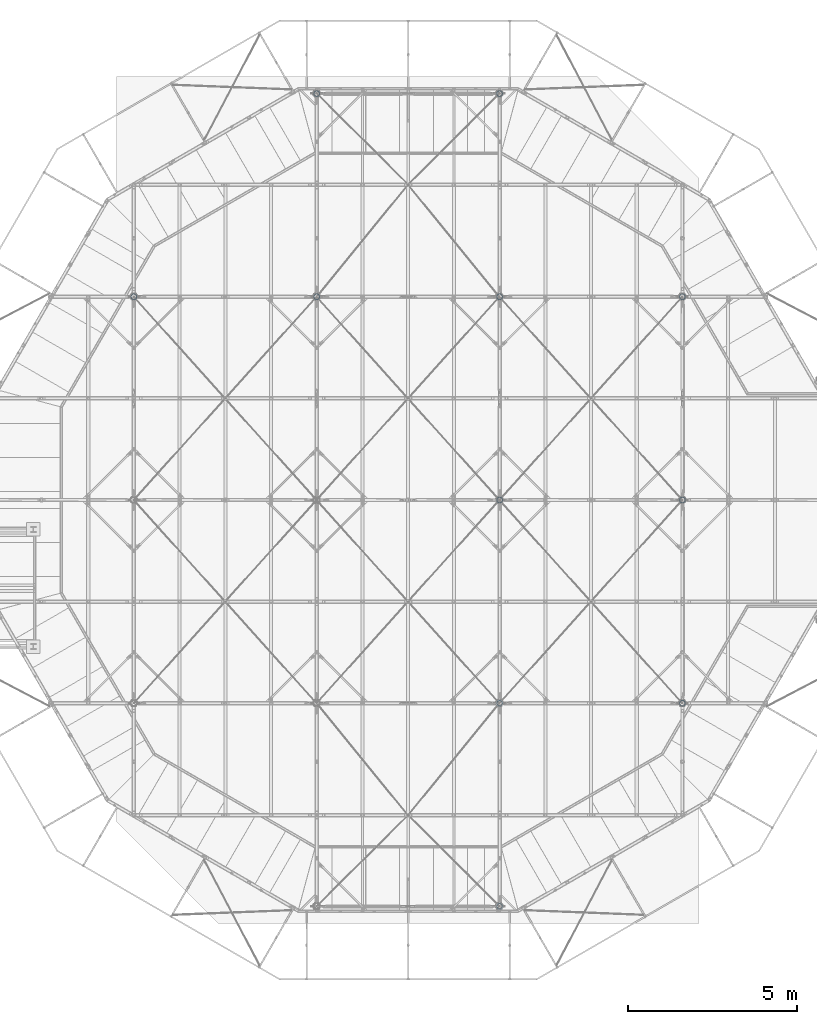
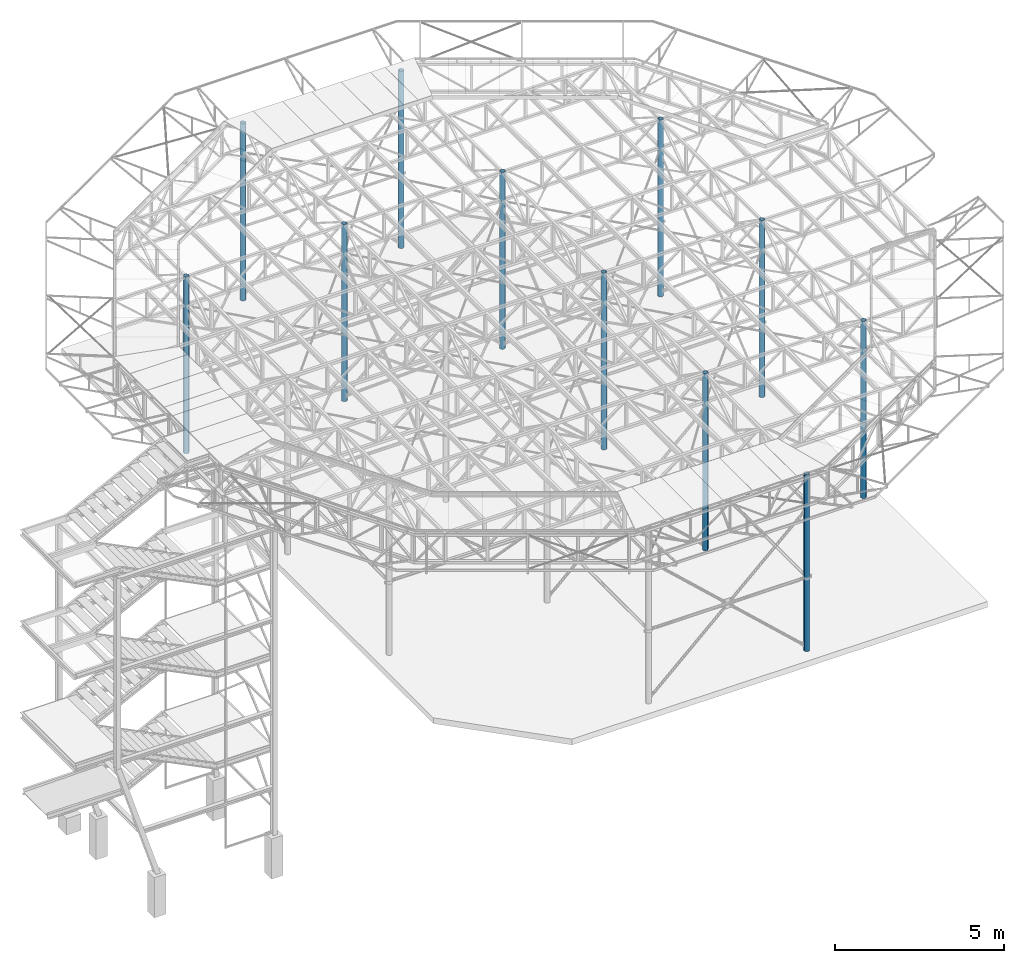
# One storey, part 3 of 132: 11 columns, 11 elements without a shape of their own.
"""IFC2X3 building model written with IfcOpenShell, lengths in millimetres."""

import ifcopenshell
import ifcopenshell.guid

model = None  # the IFC model being written
_history = None  # IfcOwnerHistory: only IFC2X3 demands one
_inside = {}  # id of a spatial element -> (the spatial element, [elements in it])
_under = {}  # id of a project, library or spatial element -> (it, [spatial elements below it])
_declared = {}  # id of a project -> (the project, [libraries it declares])
_typed = {}  # id of a type object -> (the type object, [elements of that type])
_made_of = {}  # id of a material, layer set ... -> (it, [elements and type objects made of it])


def new_model(schema):
    """Start an empty IFC model of exactly this schema.

    Asked for "IFC4X3", IfcOpenShell would pick the latest addendum, in which some entities
    have other attributes; the version numbers below select the first issue.
    IFC2X3 requires an IfcOwnerHistory on every rooted entity: one is made here for all.
    """
    global model, _history
    if schema == "IFC4X3":
        model = ifcopenshell.file(schema_version=(4, 3, 0, 0))
    else:
        model = ifcopenshell.file(schema=schema)
    _inside.clear()
    _under.clear()
    _declared.clear()
    _typed.clear()
    _made_of.clear()
    _history = None
    if model.schema == "IFC2X3":
        org = make("IfcOrganization", Name="unknown")
        user = make(
            "IfcPersonAndOrganization",
            ThePerson=make("IfcPerson", FamilyName="unknown"),
            TheOrganization=org,
        )
        app = make(
            "IfcApplication",
            ApplicationDeveloper=org,
            Version="unknown",
            ApplicationFullName="unknown",
            ApplicationIdentifier="unknown",
        )
        _history = make(
            "IfcOwnerHistory",
            OwningUser=user,
            OwningApplication=app,
            ChangeAction="ADDED",
            CreationDate=0,
        )
    return model


def make(cls, **values):
    """One entity of the class cls with the attributes given. An attribute that is None is left unset."""
    return model.create_entity(
        cls, **{name: value for name, value in values.items() if value is not None}
    )


def rooted(cls, **values):
    """An entity with a GlobalId (a new one), such as an element, a storey or a relation."""
    return make(cls, GlobalId=ifcopenshell.guid.new(), OwnerHistory=_history, **values)


def si_unit(unit_type, name, prefix=None):
    """IfcSIUnit, for example si_unit("LENGTHUNIT", "METRE", prefix="MILLI")."""
    return make("IfcSIUnit", UnitType=unit_type, Prefix=prefix, Name=name)


def assignment(units):
    """IfcUnitAssignment: the units of a project."""
    return None if units is None else make("IfcUnitAssignment", Units=units)


def point(xyz):
    """IfcCartesianPoint."""
    return None if xyz is None else make("IfcCartesianPoint", Coordinates=xyz)


def direction(xyz):
    """IfcDirection."""
    return None if xyz is None else make("IfcDirection", DirectionRatios=xyz)


def frame(location, z_axis=None, x_axis=None):
    """IfcAxis2Placement3D, a coordinate frame: its origin and axes. An axis left out is left unset."""
    return make(
        "IfcAxis2Placement3D",
        Location=point(location),
        Axis=direction(z_axis),
        RefDirection=direction(x_axis),
    )


def frame_2d(location, x_axis=None):
    """IfcAxis2Placement2D, a coordinate frame in the plane: its origin and x axis."""
    return make(
        "IfcAxis2Placement2D", Location=point(location), RefDirection=direction(x_axis)
    )


def origin_with_axes():
    """The frame at (0, 0, 0) with the z axis (0, 0, 1) and the x axis (1, 0, 0) written out."""
    return frame((0.0, 0.0, 0.0), z_axis=(0.0, 0.0, 1.0), x_axis=(1.0, 0.0, 0.0))


def origin_2d_with_axis():
    """The frame at (0, 0) in the plane with the x axis (1, 0) written out."""
    return frame_2d((0.0, 0.0), x_axis=(1.0, 0.0))


def place(relative_to, where):
    """IfcLocalPlacement: puts the frame where relative to a parent placement (None: the world)."""
    return make(
        "IfcLocalPlacement", PlacementRelTo=relative_to, RelativePlacement=where
    )


def context(
    kind, dimensions, precision=None, world=None, true_north=None, identifier=None
):
    """IfcGeometricRepresentationContext, for example the 3D "Model" context."""
    return make(
        "IfcGeometricRepresentationContext",
        ContextIdentifier=identifier,
        ContextType=kind,
        CoordinateSpaceDimension=dimensions,
        Precision=precision,
        WorldCoordinateSystem=world,
        TrueNorth=true_north,
    )


def subcontext(parent, identifier, kind, view, scale=None):
    """IfcGeometricRepresentationSubContext, for example "Body" below "Model"."""
    return make(
        "IfcGeometricRepresentationSubContext",
        ContextIdentifier=identifier,
        ContextType=kind,
        ParentContext=parent,
        TargetScale=scale,
        TargetView=view,
    )


def project(units=None, contexts=None):
    """IfcProject with its units and contexts."""
    return rooted(
        "IfcProject",
        Name="project",
        RepresentationContexts=contexts,
        UnitsInContext=assignment(units),
    )


def spatial(cls, under=None, at=None, **own):
    """A site, building, storey or space (cls), placed at a placement, below another one or the project."""
    s = rooted(cls, ObjectPlacement=at, **own)
    if under is not None:
        _under.setdefault(under.id(), (under, []))[1].append(s)
    return s


def profile(cls, at=None, kind="AREA", **sizes):
    """A parametric profile (cls). Its sizes go by their IFC names, for example OverallWidth=200.0."""
    return make(cls, ProfileType=kind, Position=at, **sizes)


def hollow_circle(**sizes):
    """IfcCircleHollowProfileDef."""
    return profile("IfcCircleHollowProfileDef", **sizes)


def extrude(swept, where, along, depth):
    """IfcExtrudedAreaSolid: the profile swept, set in the frame where, extruded along a direction by depth."""
    return make(
        "IfcExtrudedAreaSolid",
        SweptArea=swept,
        Position=where,
        ExtrudedDirection=direction(along),
        Depth=depth,
    )


def shape(context_of_items, identifier, shape_type, items):
    """IfcShapeRepresentation: the items that make up one representation, for example the "Body"."""
    return make(
        "IfcShapeRepresentation",
        ContextOfItems=context_of_items,
        RepresentationIdentifier=identifier,
        RepresentationType=shape_type,
        Items=items,
    )


def material(Name=None, Category=None):
    """IfcMaterial."""
    return make("IfcMaterial", Name=Name, Category=Category)


def made_of(thing, what):
    """Note that an element or type object is made of a material, layer set ...; save() writes the relation."""
    if what is not None:
        _made_of.setdefault(what.id(), (what, []))[1].append(thing)
    return thing


def type_object(cls, material=None, **own):
    """A type object (cls), such as IfcWallType, which elements share."""
    return made_of(rooted(cls, **own), material)


def element(
    cls,
    number,
    at=None,
    inside=None,
    cuts=None,
    type_object=None,
    material=None,
    context=None,
    identifier="Body",
    shape_type=None,
    held_by="IfcProductDefinitionShape",
    body=None,
    shapes=None,
    **own,
):
    """One element of the class cls, such as IfcWall. Its Tag is "e" and its number.

    at: its placement. inside: the storey or other place that contains it. cuts: it is an
    opening in that element (IfcRelVoidsElement). A single representation is given by context,
    identifier, shape_type and body (its items); several are given by shapes. held_by: the class
    of the entity that holds the representations. save() writes the other relations.
    """
    e = rooted(cls, Tag="e%d" % number, ObjectPlacement=at, **own)
    if body is not None:
        shapes = [shape(context, identifier, shape_type, body)]
    if shapes is not None:
        e.Representation = make(held_by, Representations=shapes)
    if inside is not None:
        _inside.setdefault(inside.id(), (inside, []))[1].append(e)
    if cuts is not None:
        rooted(
            "IfcRelVoidsElement", RelatingBuildingElement=cuts, RelatedOpeningElement=e
        )
    if type_object is not None:
        _typed.setdefault(type_object.id(), (type_object, []))[1].append(e)
    return made_of(e, material)


def aggregate(whole, parts):
    """IfcRelAggregates: a whole, such as a stair, and the parts it consists of."""
    return rooted("IfcRelAggregates", RelatingObject=whole, RelatedObjects=parts)


def save(model, path):
    """Write the relations noted so far, then the file.

    IfcRelAggregates (storeys below a building ...), IfcRelContainedInSpatialStructure (elements
    in a storey), IfcRelDefinesByType, IfcRelAssociatesMaterial and IfcRelDeclares: one each for
    every whole, place, type object, material and project.
    """
    for whole, parts in _under.values():
        aggregate(whole, parts)
    for where, things in _inside.values():
        rooted(
            "IfcRelContainedInSpatialStructure",
            RelatedElements=things,
            RelatingStructure=where,
        )
    for kind, things in _typed.values():
        rooted("IfcRelDefinesByType", RelatedObjects=things, RelatingType=kind)
    for what, things in _made_of.values():
        rooted("IfcRelAssociatesMaterial", RelatedObjects=things, RelatingMaterial=what)
    for by, libraries in _declared.values():
        rooted("IfcRelDeclares", RelatingContext=by, RelatedDefinitions=libraries)
    model.write(path)


model = new_model("IFC2X3")

# Units and contexts
model_context = context("Model", 3, precision=1e-05, world=origin_with_axes())
body_context = subcontext(model_context, "Body", "Model", "MODEL_VIEW")
ifc_project = project(units=[si_unit("LENGTHUNIT", "METRE", prefix="MILLI"), si_unit("AREAUNIT", "SQUARE_METRE"), si_unit("VOLUMEUNIT", "CUBIC_METRE"), si_unit("MASSUNIT", "GRAM", prefix="KILO"), si_unit("TIMEUNIT", "SECOND"), si_unit("PLANEANGLEUNIT", "RADIAN"), si_unit("SOLIDANGLEUNIT", "STERADIAN"), si_unit("THERMODYNAMICTEMPERATUREUNIT", "DEGREE_CELSIUS"), si_unit("LUMINOUSINTENSITYUNIT", "LUMEN")], contexts=[model_context])

# Site, building, storey
site_placement = place(None, origin_with_axes())
site = spatial("IfcSite", under=ifc_project, at=site_placement, Name="Budowa", CompositionType="ELEMENT")
building_placement = place(site_placement, origin_with_axes())
building = spatial("IfcBuilding", under=site, at=building_placement, Name="Undefined", CompositionType="ELEMENT")
storey_placement = place(building_placement, origin_with_axes())
storey = spatial("IfcBuildingStorey", under=building, at=storey_placement, Name="Undefined", CompositionType="ELEMENT", Elevation=0.0)

# Assembly, column
assembly_1_placement = place(storey_placement, origin_with_axes())
assembly_1 = element("IfcElementAssembly", 1, at=assembly_1_placement, inside=storey, Name="Steel Assembly", AssemblyPlace="NOTDEFINED", PredefinedType="RIGID_FRAME")
ifc_material = material(Name="STEEL/S235")
column_type = type_object("IfcColumnType", Name="CHS177.8*12.5", PredefinedType="NOTDEFINED")
column_1_placement = place(assembly_1_placement, frame((20225.0, 18000.000000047, 7491.0), z_axis=(0.0, 0.0, 1.0), x_axis=(-1.0, 0.0, 0.0)))
column_1 = element("IfcColumn", 2, at=column_1_placement, type_object=column_type, material=ifc_material, Name="COLUMN", ObjectType="CHS177.8*12.5", context=body_context, shape_type="SweptSolid", body=[
    extrude(hollow_circle(Radius=88.9, WallThickness=12.5, at=origin_2d_with_axis()), frame((0.0, 0.0, 6389.0), z_axis=(0.0, 0.0, -1.0), x_axis=(0.0, 1.0, 0.0)), (0.0, 0.0, 1.0), 6389.0),
])
aggregate(assembly_1, [column_1])

assembly_2_placement = place(storey_placement, origin_with_axes())
assembly_2 = element("IfcElementAssembly", 3, at=assembly_2_placement, inside=storey, Name="Steel Assembly", AssemblyPlace="NOTDEFINED", PredefinedType="RIGID_FRAME")
column_2_placement = place(assembly_2_placement, frame((20225.0, 12000.000000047, 7491.0), z_axis=(0.0, 0.0, 1.0), x_axis=(-1.0, 0.0, 0.0)))
column_2 = element("IfcColumn", 4, at=column_2_placement, type_object=column_type, material=ifc_material, Name="COLUMN", ObjectType="CHS177.8*12.5", context=body_context, shape_type="SweptSolid", body=[
    extrude(hollow_circle(Radius=88.9, WallThickness=12.5, at=origin_2d_with_axis()), frame((0.0, 0.0, 6389.0), z_axis=(0.0, 0.0, -1.0), x_axis=(0.0, 1.0, 0.0)), (0.0, 0.0, 1.0), 6389.0),
])
aggregate(assembly_2, [column_2])

assembly_3_placement = place(storey_placement, origin_with_axes())
assembly_3 = element("IfcElementAssembly", 5, at=assembly_3_placement, inside=storey, Name="Steel Assembly", AssemblyPlace="NOTDEFINED", PredefinedType="RIGID_FRAME")
column_3_placement = place(assembly_3_placement, frame((20225.0, 6000.00000004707, 7491.0), z_axis=(0.0, 0.0, 1.0), x_axis=(-1.0, 0.0, 0.0)))
column_3 = element("IfcColumn", 6, at=column_3_placement, type_object=column_type, material=ifc_material, Name="COLUMN", ObjectType="CHS177.8*12.5", context=body_context, shape_type="SweptSolid", body=[
    extrude(hollow_circle(Radius=88.9, WallThickness=12.5, at=origin_2d_with_axis()), frame((0.0, 0.0, 6389.0), z_axis=(0.0, 0.0, -1.0), x_axis=(0.0, 1.0, 0.0)), (0.0, 0.0, 1.0), 6389.0),
])
aggregate(assembly_3, [column_3])

assembly_4_placement = place(storey_placement, origin_with_axes())
assembly_4 = element("IfcElementAssembly", 7, at=assembly_4_placement, inside=storey, Name="Steel Assembly", AssemblyPlace="NOTDEFINED", PredefinedType="RIGID_FRAME")
column_4_placement = place(assembly_4_placement, frame((4024.99999991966, 18000.000000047, 7491.0), z_axis=(0.0, 0.0, 1.0), x_axis=(-1.0, 0.0, 0.0)))
column_4 = element("IfcColumn", 8, at=column_4_placement, type_object=column_type, material=ifc_material, Name="COLUMN", ObjectType="CHS177.8*12.5", context=body_context, shape_type="SweptSolid", body=[
    extrude(hollow_circle(Radius=88.9, WallThickness=12.5, at=origin_2d_with_axis()), frame((0.0, 0.0, 6389.0), z_axis=(0.0, 0.0, -1.0), x_axis=(0.0, 1.0, 0.0)), (0.0, 0.0, 1.0), 6389.0),
])
aggregate(assembly_4, [column_4])

assembly_5_placement = place(storey_placement, origin_with_axes())
assembly_5 = element("IfcElementAssembly", 9, at=assembly_5_placement, inside=storey, Name="Steel Assembly", AssemblyPlace="NOTDEFINED", PredefinedType="RIGID_FRAME")
column_5_placement = place(assembly_5_placement, frame((14824.999999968, 24000.000000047, 7491.0), z_axis=(0.0, 0.0, 1.0), x_axis=(-1.0, 0.0, 0.0)))
column_5 = element("IfcColumn", 10, at=column_5_placement, type_object=column_type, material=ifc_material, Name="COLUMN", ObjectType="CHS177.8*12.5", context=body_context, shape_type="SweptSolid", body=[
    extrude(hollow_circle(Radius=88.9, WallThickness=12.5, at=origin_2d_with_axis()), frame((0.0, 0.0, 6389.0), z_axis=(0.0, 0.0, -1.0), x_axis=(0.0, 1.0, 0.0)), (0.0, 0.0, 1.0), 6389.0),
])
aggregate(assembly_5, [column_5])

assembly_6_placement = place(storey_placement, origin_with_axes())
assembly_6 = element("IfcElementAssembly", 11, at=assembly_6_placement, inside=storey, Name="Steel Assembly", AssemblyPlace="NOTDEFINED", PredefinedType="RIGID_FRAME")
column_6_placement = place(assembly_6_placement, frame((9424.99999994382, 24000.000000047, 7491.0), z_axis=(0.0, 0.0, 1.0), x_axis=(-1.0, 0.0, 0.0)))
column_6 = element("IfcColumn", 12, at=column_6_placement, type_object=column_type, material=ifc_material, Name="COLUMN", ObjectType="CHS177.8*12.5", context=body_context, shape_type="SweptSolid", body=[
    extrude(hollow_circle(Radius=88.9, WallThickness=12.5, at=origin_2d_with_axis()), frame((0.0, 0.0, 6389.0), z_axis=(0.0, 0.0, -1.0), x_axis=(0.0, 1.0, 0.0)), (0.0, 0.0, 1.0), 6389.0),
])
aggregate(assembly_6, [column_6])

assembly_7_placement = place(storey_placement, origin_with_axes())
assembly_7 = element("IfcElementAssembly", 13, at=assembly_7_placement, inside=storey, Name="Steel Assembly", AssemblyPlace="NOTDEFINED", PredefinedType="RIGID_FRAME")
column_7_placement = place(assembly_7_placement, frame((14824.999999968, 18000.000000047, 7491.0), z_axis=(0.0, 0.0, 1.0), x_axis=(-1.0, 0.0, 0.0)))
column_7 = element("IfcColumn", 14, at=column_7_placement, type_object=column_type, material=ifc_material, Name="COLUMN", ObjectType="CHS177.8*12.5", context=body_context, shape_type="SweptSolid", body=[
    extrude(hollow_circle(Radius=88.9, WallThickness=12.5, at=origin_2d_with_axis()), frame((0.0, 0.0, 6389.0), z_axis=(0.0, 0.0, -1.0), x_axis=(0.0, 1.0, 0.0)), (0.0, 0.0, 1.0), 6389.0),
])
aggregate(assembly_7, [column_7])

assembly_8_placement = place(storey_placement, origin_with_axes())
assembly_8 = element("IfcElementAssembly", 15, at=assembly_8_placement, inside=storey, Name="Steel Assembly", AssemblyPlace="NOTDEFINED", PredefinedType="RIGID_FRAME")
column_8_placement = place(assembly_8_placement, frame((9424.99999994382, 18000.000000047, 7491.0), z_axis=(0.0, 0.0, 1.0), x_axis=(-1.0, 0.0, 0.0)))
column_8 = element("IfcColumn", 16, at=column_8_placement, type_object=column_type, material=ifc_material, Name="COLUMN", ObjectType="CHS177.8*12.5", context=body_context, shape_type="SweptSolid", body=[
    extrude(hollow_circle(Radius=88.9, WallThickness=12.5, at=origin_2d_with_axis()), frame((0.0, 0.0, 6389.0), z_axis=(0.0, 0.0, -1.0), x_axis=(0.0, 1.0, 0.0)), (0.0, 0.0, 1.0), 6389.0),
])
aggregate(assembly_8, [column_8])

assembly_9_placement = place(storey_placement, origin_with_axes())
assembly_9 = element("IfcElementAssembly", 17, at=assembly_9_placement, inside=storey, Name="Steel Assembly", AssemblyPlace="NOTDEFINED", PredefinedType="RIGID_FRAME")
column_9_placement = place(assembly_9_placement, frame((14824.999999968, 12000.000000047, 7491.0), z_axis=(0.0, 0.0, 1.0), x_axis=(-1.0, 0.0, 0.0)))
column_9 = element("IfcColumn", 18, at=column_9_placement, type_object=column_type, material=ifc_material, Name="COLUMN", ObjectType="CHS177.8*12.5", context=body_context, shape_type="SweptSolid", body=[
    extrude(hollow_circle(Radius=88.9, WallThickness=12.5, at=origin_2d_with_axis()), frame((0.0, 0.0, 6389.0), z_axis=(0.0, 0.0, -1.0), x_axis=(0.0, 1.0, 0.0)), (0.0, 0.0, 1.0), 6389.0),
])
aggregate(assembly_9, [column_9])

assembly_10_placement = place(storey_placement, origin_with_axes())
assembly_10 = element("IfcElementAssembly", 19, at=assembly_10_placement, inside=storey, Name="Steel Assembly", AssemblyPlace="NOTDEFINED", PredefinedType="RIGID_FRAME")
column_10_placement = place(assembly_10_placement, frame((14824.999999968, 6000.00000004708, 7491.0), z_axis=(0.0, 0.0, 1.0), x_axis=(-1.0, 0.0, 0.0)))
column_10 = element("IfcColumn", 20, at=column_10_placement, type_object=column_type, material=ifc_material, Name="COLUMN", ObjectType="CHS177.8*12.5", context=body_context, shape_type="SweptSolid", body=[
    extrude(hollow_circle(Radius=88.9, WallThickness=12.5, at=origin_2d_with_axis()), frame((0.0, 0.0, 6389.0), z_axis=(0.0, 0.0, -1.0), x_axis=(0.0, 1.0, 0.0)), (0.0, 0.0, 1.0), 6389.0),
])
aggregate(assembly_10, [column_10])

assembly_11_placement = place(storey_placement, origin_with_axes())
assembly_11 = element("IfcElementAssembly", 21, at=assembly_11_placement, inside=storey, Name="Steel Assembly", AssemblyPlace="NOTDEFINED", PredefinedType="RIGID_FRAME")
column_11_placement = place(assembly_11_placement, frame((14824.999999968, 4.71054590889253e-08, 7491.0), z_axis=(0.0, 0.0, 1.0), x_axis=(-1.0, 0.0, 0.0)))
column_11 = element("IfcColumn", 22, at=column_11_placement, type_object=column_type, material=ifc_material, Name="COLUMN", ObjectType="CHS177.8*12.5", context=body_context, shape_type="SweptSolid", body=[
    extrude(hollow_circle(Radius=88.9, WallThickness=12.5, at=origin_2d_with_axis()), frame((0.0, 0.0, 6389.0), z_axis=(0.0, 0.0, -1.0), x_axis=(0.0, 1.0, 0.0)), (0.0, 0.0, 1.0), 6389.0),
])
aggregate(assembly_11, [column_11])

save(model, "model.ifc")
